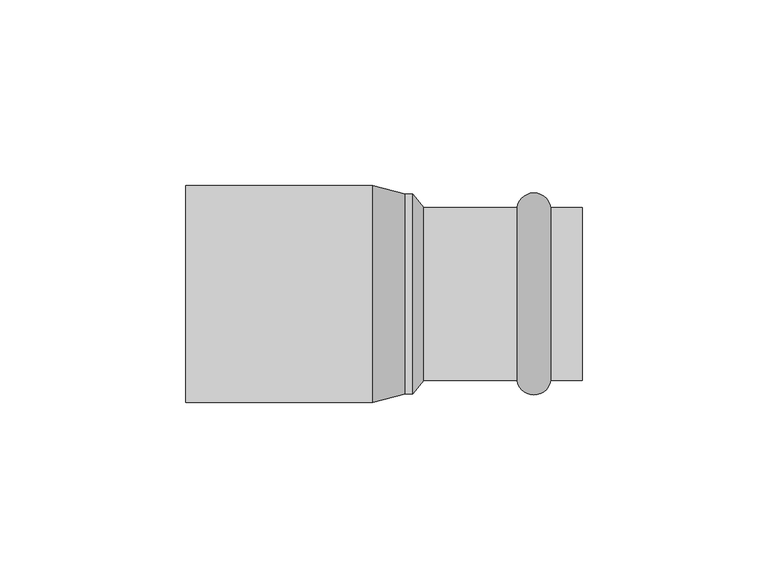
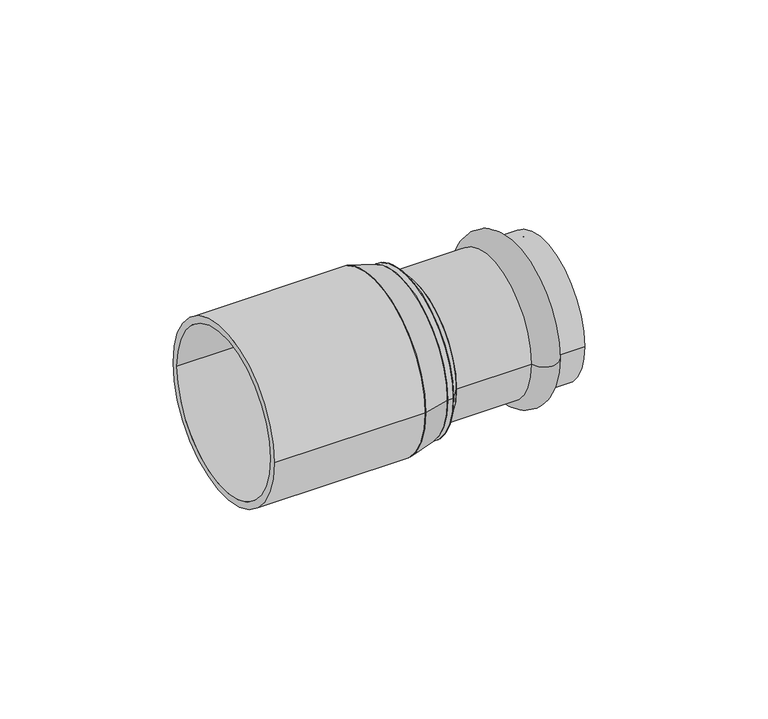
"""IFC4 building model written with IfcOpenShell, lengths in millimetres: pipe fitting geometry, VALTEC_VTi.905.I_Вставка переходная_Нержавеющая сталь : VTi.905.I."""

from ifc_helpers import new_model, si_unit, point, frame, origin, origin_2d, place, context, project, spatial, polyline, circle_curve, ellipse_curve, trimmed, segment, composite_curve, outline, extrude, source, transform, mapped, element, save
from ifc_brep_helpers import plane_surface, cylinder_surface, revolved_surface, advanced_brep


def pipe_fitting_ba2a49be(model_context):
    return source(origin(), model_context, "Body", "SolidModel", [
        advanced_brep(
        [(44.9464272, -23.35, 0.0), (35.8535728, -23.35, 0.0), (35.8535728, 23.35, 0.0), (44.9464272, 23.35, 0.0), (53.5, -23.35, 0.0), (53.5, 23.35, 0.0), (53.5, -21.0, 0.0), (53.5, 21.0, 0.0), (10.7, -21.0, 0.0), (10.7, 21.0, 0.0), (10.7, -23.35, 0.0), (10.7, 23.35, 0.0)],
        [
            (0, 1, circle_curve(frame((40.4, -22.65, 0.0), z_axis=(0.0, 0.0, -1.0), x_axis=(-1.0, 0.0, 0.0)), 4.6)),
            (1, 2, circle_curve(frame((35.8535728, 0.0, 0.0), z_axis=(1.0, 0.0, 0.0), x_axis=(0.0, 1.0, 0.0)), 23.35)),
            (2, 3, circle_curve(frame((40.4, 22.65, 0.0), z_axis=(0.0, 0.0, -1.0), x_axis=(-1.0, 0.0, 0.0)), 4.6)),
            (3, 0, circle_curve(frame((44.9464272, 0.0, 0.0), z_axis=(-1.0, 0.0, 0.0), x_axis=(0.0, 1.0, 0.0)), 23.35)),
            (2, 1, circle_curve(frame((35.8535728, 0.0, 0.0), z_axis=(1.0, 0.0, 0.0), x_axis=(0.0, 1.0, 0.0)), 23.35)),
            (0, 3, circle_curve(frame((44.9464272, 0.0, 0.0), z_axis=(-1.0, 0.0, 0.0), x_axis=(0.0, 1.0, 0.0)), 23.35)),
            (4, 0),
            (3, 5),
            (5, 4, circle_curve(frame((53.5, 0.0, 0.0), z_axis=(-1.0, 0.0, 0.0), x_axis=(0.0, 1.0, 0.0)), 23.35)),
            (4, 5, circle_curve(frame((53.5, 0.0, 0.0), z_axis=(-1.0, 0.0, 0.0), x_axis=(0.0, 1.0, 0.0)), 23.35)),
            (6, 4),
            (5, 7),
            (7, 6, circle_curve(frame((53.5, 0.0, 0.0), z_axis=(-1.0, 0.0, 0.0), x_axis=(0.0, 1.0, 0.0)), 21.0)),
            (6, 7, circle_curve(frame((53.5, 0.0, 0.0), z_axis=(-1.0, 0.0, 0.0), x_axis=(0.0, 1.0, 0.0)), 21.0)),
            (8, 6),
            (7, 9),
            (9, 8, circle_curve(frame((10.7, 0.0, 0.0), z_axis=(-1.0, 0.0, 0.0), x_axis=(0.0, 1.0, 0.0)), 21.0)),
            (8, 9, circle_curve(frame((10.7, 0.0, 0.0), z_axis=(-1.0, 0.0, 0.0), x_axis=(0.0, 1.0, 0.0)), 21.0)),
            (10, 8),
            (9, 11),
            (11, 10, circle_curve(frame((10.7, 0.0, 0.0), z_axis=(-1.0, 0.0, 0.0), x_axis=(0.0, 1.0, 0.0)), 23.35)),
            (10, 11, circle_curve(frame((10.7, 0.0, 0.0), z_axis=(-1.0, 0.0, 0.0), x_axis=(0.0, 1.0, 0.0)), 23.35)),
            (1, 10),
            (11, 2),
        ],
        [
            revolved_surface(trimmed(ellipse_curve(frame((40.4, 22.65, 0.0), z_axis=(0.0, 0.0, -1.0), x_axis=(-1.0, 0.0, 0.0)), 4.6, 4.6), [point((35.8535728, 23.35, 0.0))], [point((44.9464272, 23.35, 0.0))], True, "CARTESIAN"), (57.0364426, 0.0, 0.0), (1.0, 0.0, 0.0)),
            cylinder_surface(frame((57.0364426, 0.0, 0.0), z_axis=(1.0, 0.0, 0.0), x_axis=(0.0, 1.0, 0.0)), 23.35),
            plane_surface(frame((53.5, 0.0, 0.0), z_axis=(1.0, 0.0, 0.0), x_axis=(0.0, 1.0, 0.0))),
            revolved_surface(polyline([(53.5, 21.0, 0.0), (10.700000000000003, 21.0, 0.0)]), (57.0364426, 0.0, 0.0), (1.0, 0.0, 0.0)),
            plane_surface(frame((10.7, 0.0, 0.0), z_axis=(-1.0, 0.0, 0.0), x_axis=(0.0, 1.0, 0.0))),
        ],
        [
            (0, [[1, 2, 3, 4]]),
            (0, [[-3, 5, -1, 6]]),
            (1, [[7, -4, 8, 9]]),
            (1, [[-8, -6, -7, 10]]),
            (2, [[11, -9, 12, 13]]),
            (2, [[-12, -10, -11, 14]]),
            (3, [[15, -13, 16, 17]]),
            (3, [[-16, -14, -15, 18]]),
            (4, [[19, -17, 20, 21]]),
            (4, [[-20, -18, -19, 22]]),
            (1, [[23, -21, 24, -2]]),
            (1, [[-24, -22, -23, -5]]),
        ],
    ),
        advanced_brep(
        [(7.7, -27.0, 0.0), (7.7, 27.0, 0.0), (10.7, -23.35, 0.0), (10.7, 23.35, 0.0)],
        [
            (0, 1, circle_curve(frame((7.7, 0.0, 0.0), z_axis=(-1.0, 0.0, 0.0), x_axis=(0.0, -1.0, 0.0)), 27.0)),
            (1, 0, circle_curve(frame((7.7, 0.0, 0.0), z_axis=(-1.0, 0.0, 0.0), x_axis=(0.0, 1.0, 0.0)), 27.0)),
            (2, 3, circle_curve(frame((10.7, 0.0, 0.0), z_axis=(1.0, 0.0, 0.0), x_axis=(0.0, 1.0, 0.0)), 23.35)),
            (3, 2, circle_curve(frame((10.7, 0.0, 0.0), z_axis=(1.0, 0.0, 0.0), x_axis=(0.0, -1.0, 0.0)), 23.35)),
            (2, 0),
            (1, 3),
        ],
        [
            plane_surface(frame((7.7, 0.0, 0.0), z_axis=(-1.0, 0.0, 0.0), x_axis=(0.0, 0.0, 1.0))),
            plane_surface(frame((10.7, 0.0, 0.0), z_axis=(1.0, 0.0, 0.0), x_axis=(0.0, 0.0, 1.0))),
            revolved_surface(polyline([(10.7, -23.349999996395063, 0.0), (7.699999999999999, -27.0, 0.0)]), (29.8917808, 0.0, 0.0), (-1.0, 0.0, 0.0)),
            revolved_surface(polyline([(10.7, 23.349999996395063, 0.0), (7.699999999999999, 27.0, 0.0)]), (29.8917808, 0.0, 0.0), (-1.0, 0.0, 0.0)),
        ],
        [
            (0, [[1, 2]]),
            (1, [[3, 4]]),
            (2, [[-3, 5, -2, 6]]),
            (3, [[-4, -6, -1, -5]]),
        ],
    ),
        extrude(outline(composite_curve([segment(trimmed(circle_curve(origin_2d(), 27.0), [point((-27.0, 0.0))], [point((27.0, 0.0))], False, "CARTESIAN"), True, "CONTINUOUS"), segment(trimmed(circle_curve(origin_2d(), 27.0), [point((27.0, 0.0))], [point((-27.0, 0.0))], False, "CARTESIAN"), True, "CONTINUOUS")], self_intersect=False)), frame((5.7, 0.0, 0.0), z_axis=(1.0, 0.0, 0.0), x_axis=(0.0, 1.0, 0.0)), (0.0, 0.0, 1.0), 2.0),
        advanced_brep(
        [(5.7, -27.0, 0.0), (5.7, 27.0, 0.0), (-3.0, -29.3, 0.0), (-3.0, 29.3, 0.0)],
        [
            (0, 1, circle_curve(frame((5.7, 0.0, 0.0), z_axis=(1.0, 0.0, 0.0), x_axis=(0.0, -1.0, 0.0)), 27.0)),
            (1, 0, circle_curve(frame((5.7, 0.0, 0.0), z_axis=(1.0, 0.0, 0.0), x_axis=(0.0, 1.0, 0.0)), 27.0)),
            (2, 3, circle_curve(frame((-3.0, 0.0, 0.0), z_axis=(-1.0, 0.0, 0.0), x_axis=(0.0, 1.0, 0.0)), 29.3)),
            (3, 2, circle_curve(frame((-3.0, 0.0, 0.0), z_axis=(-1.0, 0.0, 0.0), x_axis=(0.0, -1.0, 0.0)), 29.3)),
            (3, 1),
            (0, 2),
        ],
        [
            plane_surface(frame((5.7, 0.0, 0.0), z_axis=(1.0, 0.0, 0.0), x_axis=(0.0, 0.0, -1.0))),
            plane_surface(frame((-3.0, 0.0, 0.0), z_axis=(-1.0, 0.0, 0.0), x_axis=(0.0, 0.0, -1.0))),
            revolved_surface(polyline([(5.700000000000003, -27.00000000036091, 0.0), (-3.0, -29.3, 0.0)]), (107.8304348, 0.0, 0.0), (-1.0, 0.0, 0.0)),
            revolved_surface(polyline([(5.700000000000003, 27.00000000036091, 0.0), (-3.0, 29.3, 0.0)]), (107.8304348, 0.0, 0.0), (-1.0, 0.0, 0.0)),
        ],
        [
            (0, [[1, 2]]),
            (1, [[3, 4]]),
            (2, [[-4, 5, -1, 6]]),
            (3, [[-3, -6, -2, -5]]),
        ],
    ),
        extrude(outline(composite_curve([segment(trimmed(circle_curve(origin_2d(), 29.3), [point((-29.3, 0.0))], [point((29.3, 0.0))], False, "CARTESIAN"), True, "CONTINUOUS"), segment(trimmed(circle_curve(origin_2d(), 29.3), [point((29.3, 0.0))], [point((-29.3, 0.0))], False, "CARTESIAN"), True, "CONTINUOUS")], self_intersect=False), holes=[composite_curve([segment(trimmed(circle_curve(origin_2d(), 27.0), [point((-27.0, 0.0))], [point((27.0, 0.0))], True, "CARTESIAN"), True, "CONTINUOUS"), segment(trimmed(circle_curve(origin_2d(), 27.0), [point((27.0, 0.0))], [point((-27.0, 0.0))], True, "CARTESIAN"), True, "CONTINUOUS")], self_intersect=False)]), frame((-53.5, 0.0, 0.0), z_axis=(1.0, 0.0, 0.0), x_axis=(0.0, 1.0, 0.0)), (0.0, 0.0, 1.0), 50.5),
    ])


if __name__ == "__main__":
    model = new_model("IFC4")
    model_context = context("Model", 3, world=origin())
    ifc_project = project(units=[si_unit("LENGTHUNIT", "METRE", prefix="MILLI")], contexts=[model_context])
    site = spatial("IfcSite", under=ifc_project)
    building = spatial("IfcBuilding", under=site)
    placement = place(None, origin())
    pipe_fitting_shape = pipe_fitting_ba2a49be(model_context)
    element("IfcPipeFitting", 1, ObjectType="VALTEC_VTi.905.I_Вставка переходная_Нержавеющая сталь : VTi.905.I", at=placement, inside=building, context=model_context, shape_type="MappedRepresentation", body=[
        mapped(pipe_fitting_shape, transform((0.0, 0.0, 0.0), x_axis=(1.0, 0.0, 0.0), y_axis=(0.0, 1.0, 0.0), z_axis=(0.0, 0.0, 1.0))),
    ])
    save(model, "model.ifc")
